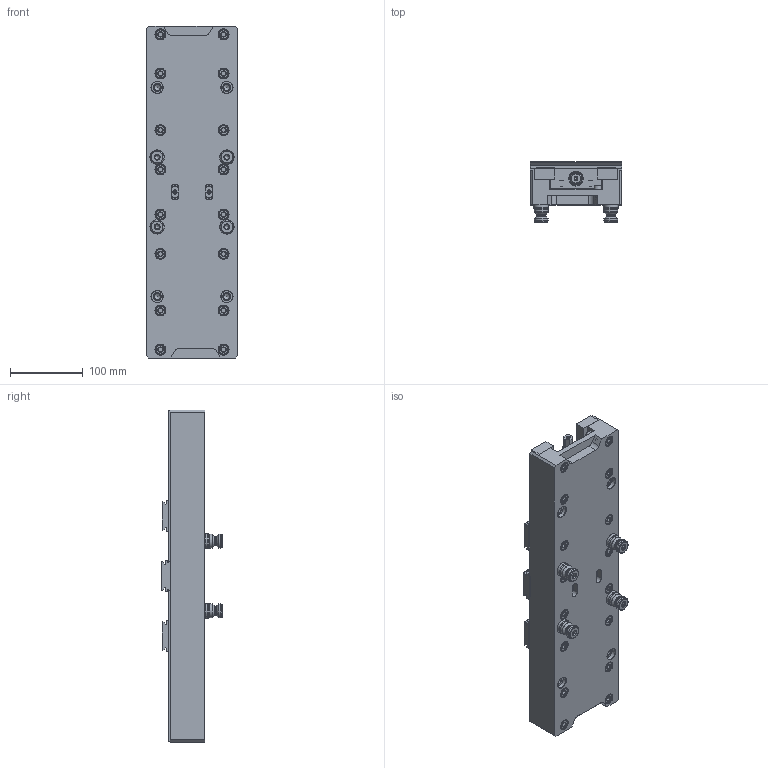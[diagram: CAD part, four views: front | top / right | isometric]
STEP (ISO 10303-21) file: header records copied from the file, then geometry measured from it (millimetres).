
FILE_DESCRIPTION (( 'STEP AP214' ), '1' );
FILE_NAME ('VA518_SPEC.STEP', '2025-08-11T11:52:55', ( '' ), ( '' ), 'SwSTEP 2.0', 'SolidWorks 2025', '' );
FILE_SCHEMA (( 'AUTOMOTIVE_DESIGN' ));
Length unit declared in the file: inch
Products named in the file (21): VA518-6_518_SPEC.DWG_VA518-6; VA518-1_518_SPEC.DWG_VA518-1; VA518-4_518_SPEC.DWG_VA518-4; M5X20MM.SHCS_513_SPEC.DWG_M5X20MM.SHCS; VA56-2R_513_SPEC.DWG_VA56-2R; M8X35MM.SHCS_513_SPEC.DWG_M8X35MM.SHCS; VA56-2L_513_SPEC.DWG_VA56-2L; VA56-10_513_SPEC.DWG_VA56-10; VA518_SPEC; PS20F-1_513_SPEC.DWG_HARD TURN; PS20F_513_SPEC.DWG; VA56-8_513_SPEC.DWG_VA56-8; M6X10.DP_513_SPEC.DWG_M6X10.DP; VA56-3B_513_SPEC.DWG_VA56-3B; VA56-3T_513_SPEC.DWG_VA56-3T; VA56-9_513_SPEC.DWG_VA56-9; M10X25.FPSS_513_SPEC.DWG_91390A162; M12X35MM.LHSCS.10.9.SPEC.DWG_M12X35MM.LHSCS; VA513-5_513_SPEC.DWG_VA513-5; M8X025.SHCS_513_SPEC.DWG_M8X025.SHCS; M6X6MM.SHCS_513_SPEC.DWG_M6X6MM.SHCS
Assembly tree (64 placements, depth 3):
  VA518_SPEC
    M12X35MM.LHSCS.10.9.SPEC.DWG_M12X35MM.LHSCS  x2
    M6X10.DP_513_SPEC.DWG_M6X10.DP  x3
    M8X35MM.SHCS_513_SPEC.DWG_M8X35MM.SHCS  x16
    M8X025.SHCS_513_SPEC.DWG_M8X025.SHCS  x12
    M5X20MM.SHCS_513_SPEC.DWG_M5X20MM.SHCS  x4
    M6X6MM.SHCS_513_SPEC.DWG_M6X6MM.SHCS  x2
    PS20F_513_SPEC.DWG  x4
      PS20F-1_513_SPEC.DWG_HARD TURN
      M10X25.FPSS_513_SPEC.DWG_91390A162
    VA518-1_518_SPEC.DWG_VA518-1
    VA56-2L_513_SPEC.DWG_VA56-2L
    VA56-2R_513_SPEC.DWG_VA56-2R
    VA56-3B_513_SPEC.DWG_VA56-3B
    VA56-3T_513_SPEC.DWG_VA56-3T
    VA518-4_518_SPEC.DWG_VA518-4
    VA513-5_513_SPEC.DWG_VA513-5
    VA518-6_518_SPEC.DWG_VA518-6  x4
    VA56-8_513_SPEC.DWG_VA56-8  x2
    VA56-9_513_SPEC.DWG_VA56-9  x2
    VA56-10_513_SPEC.DWG_VA56-10  x4
Bounding box: 125.86 x 83.63 x 457.2 mm (x, y, z)
Volume: 2309707.3 mm3; surface area: 475959.3 mm2
Topology: 66 solids, 66 shells, 1937 faces, 4236 edges, 2577 vertices
Faces by surface type: plane 896, cone 483, cylinder 398, torus 154, sphere 6
Full cylindrical faces by diameter (mm): 3 x1, 4.2 x4, 5 x6, 5.5 x6, 6 x9, 6.02 x2, 6.05 x2, 6.147 x4, 6.35 x1, 6.8 x24, 8 x28, 8.5 x40, 9.5 x4, 10 x18, 10.2 x2, 11.5 x1, 12 x4, 12.497 x4, 12.5 x2, 12.6 x16, 13 x28, 13.3 x3, 14 x26, 14.58 x2, 15.992 x4, 16 x2, 16.02 x8, 16.05 x2, 18 x2, 19 x2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
Entity records: 25008 total; most frequent: CARTESIAN_POINT 4439, DIRECTION 4165, ORIENTED_EDGE 3298, EDGE_CURVE 1649, AXIS2_PLACEMENT_3D 1646, EDGE_LOOP 1409, VERTEX_POINT 1204, FACE_OUTER_BOUND 1073
